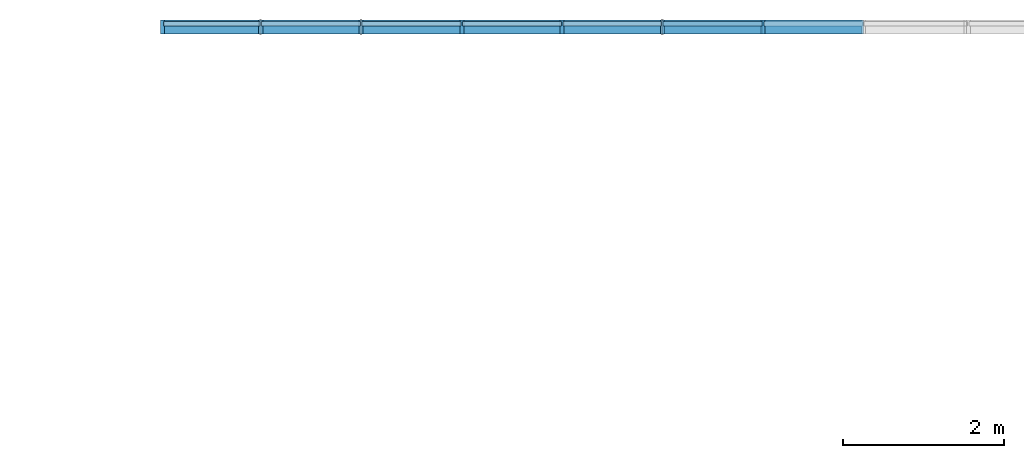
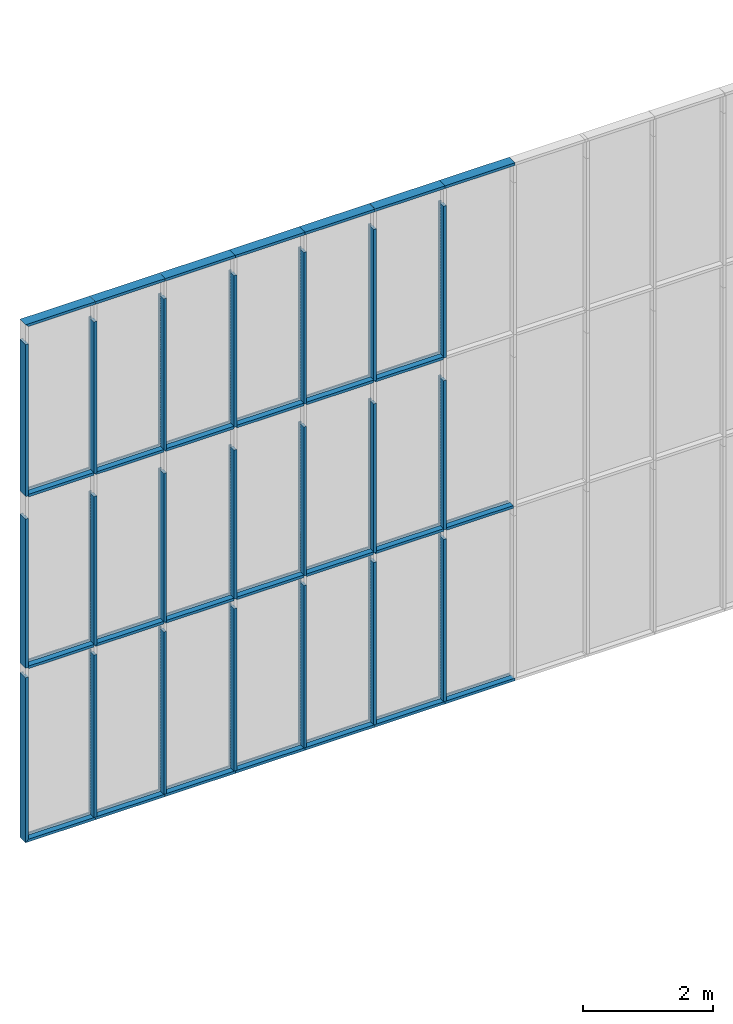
# One storey, part 10 of 387: 48 members, 1 element without a shape of its own.
"""IFC2X3 building model written with IfcOpenShell, lengths in millimetres."""

from ifc_helpers import new_model, entity, si_unit, converted_unit, derived_unit, money_unit, direction, frame, origin_with_axes, place, context, subcontext, project, spatial, polyline, outline, extrude, clip, halfspace, material, type_object, element, aggregate, save


model = new_model("IFC2X3")

# Units and contexts
model_context = context("Model", 3, precision=0.01, world=origin_with_axes(), true_north=direction((0.0, 1.0)))
body_context = subcontext(model_context, "Body", "Model", "MODEL_VIEW")
ifc_project = project(units=[si_unit("LENGTHUNIT", "METRE", prefix="MILLI"), si_unit("AREAUNIT", "SQUARE_METRE"), si_unit("VOLUMEUNIT", "CUBIC_METRE"), converted_unit("PLANEANGLEUNIT", "DEGREE", entity("IfcPlaneAngleMeasure", 0.0174532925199), si_unit("PLANEANGLEUNIT", "RADIAN"), dimensions=[0, 0, 0, 0, 0, 0, 0]), si_unit("SOLIDANGLEUNIT", "STERADIAN"), money_unit("EUR"), converted_unit("TIMEUNIT", "Year", entity("IfcTimeMeasure", 31556926.0), si_unit("TIMEUNIT", "SECOND"), dimensions=[0, 0, 1, 0, 0, 0, 0]), si_unit("MASSUNIT", "GRAM", prefix="KILO"), si_unit("THERMODYNAMICTEMPERATUREUNIT", "DEGREE_CELSIUS"), si_unit("LUMINOUSINTENSITYUNIT", "LUMEN"), si_unit("ENERGYUNIT", "JOULE", prefix="MEGA"), derived_unit("THERMALCONDUCTANCEUNIT", [(si_unit("POWERUNIT", "WATT"), 1), (si_unit("LENGTHUNIT", "METRE"), -1), (si_unit("THERMODYNAMICTEMPERATUREUNIT", "KELVIN"), -1)]), derived_unit("SPECIFICHEATCAPACITYUNIT", [(si_unit("ENERGYUNIT", "JOULE"), 1), (si_unit("MASSUNIT", "GRAM", prefix="KILO"), -1), (si_unit("THERMODYNAMICTEMPERATUREUNIT", "KELVIN"), -1)]), derived_unit("MASSDENSITYUNIT", [(si_unit("MASSUNIT", "GRAM", prefix="KILO"), 1), (si_unit("VOLUMEUNIT", "CUBIC_METRE"), -1)])], contexts=[model_context])

# Site, building, storey
site_placement = place(None, origin_with_axes())
site = spatial("IfcSite", under=ifc_project, at=site_placement, Name="Puškini 31, Narva", CompositionType="ELEMENT")
building_placement = place(site_placement, origin_with_axes())
building = spatial("IfcBuilding", under=site, at=building_placement, Name="Narva Riigigümnaasium", CompositionType="ELEMENT")
storey_placement = place(building_placement, frame((0.0, 0.0, 2640.0), z_axis=(0.0, 0.0, 1.0), x_axis=(1.0, 0.0, 0.0)))
storey = spatial("IfcBuildingStorey", under=building, at=storey_placement, Name="2.korrus +2.64", CompositionType="ELEMENT", Elevation=2640.0)

# Curtain wall, members
curtain_wall_type = type_object("IfcCurtainWallType", Name="Curtain Wall Type", PredefinedType="NOTDEFINED")
curtain_wall_placement = place(storey_placement, frame((50893.5555569, 254360.0, -2029.99998222), z_axis=(0.0, 0.0, 1.0), x_axis=(1.0, 0.0, 0.0)))
curtain_wall = element("IfcCurtainWall", 1, at=curtain_wall_placement, inside=storey, type_object=curtain_wall_type, Name="G-KLF-06")
ifc_material = material(Name="ET-04_Alumiinium")
member_type_1 = type_object("IfcMemberType", Name="Mullion Frame 50 x 176", PredefinedType="MULLION")
member_1_placement = place(curtain_wall_placement, frame((-8307.55555633, 0.0, 0.0), z_axis=(0.0, 0.0, 1.0), x_axis=(1.0, 0.0, 0.0)))
member_1 = element("IfcMember", 2, at=member_1_placement, type_object=member_type_1, material=ifc_material, Name="klaasfassaadi raam", ObjectType="MULLION", context=body_context, shape_type="SweptSolid", body=[
    extrude(outline(polyline([(-10.0, -29.0), (-25.0, -29.0), (-25.0, -130.0), (25.0, -130.0), (25.0, -29.0), (10.0, -29.0), (10.0, 29.0), (25.0, 29.0), (25.0, 46.0), (-25.0, 46.0), (-25.0, 29.0), (-10.0, 29.0), (-10.0, -29.0)])), frame((0.0, 0.0, 49.9999998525), z_axis=(0.0, 0.0, 1.0), x_axis=(1.0, 0.0, 0.0)), (0.0, 0.0, 1.0), 3059.99997702),
])
member_2_placement = place(curtain_wall_placement, frame((-9553.55555647, 0.0, 0.0), z_axis=(0.0, 0.0, 1.0), x_axis=(1.0, 0.0, 0.0)))
member_2 = element("IfcMember", 3, at=member_2_placement, type_object=member_type_1, material=ifc_material, Name="klaasfassaadi raam", ObjectType="MULLION", context=body_context, shape_type="SweptSolid", body=[
    extrude(outline(polyline([(-10.0, -29.0), (-25.0, -29.0), (-25.0, -130.0), (25.0, -130.0), (25.0, -29.0), (10.0, -29.0), (10.0, 29.0), (25.0, 29.0), (25.0, 46.0), (-25.0, 46.0), (-25.0, 29.0), (-10.0, 29.0), (-10.0, -29.0)])), frame((0.0, 0.0, 49.9999998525), z_axis=(0.0, 0.0, 1.0), x_axis=(1.0, 0.0, 0.0)), (0.0, 0.0, 1.0), 3059.99997702),
])
member_3_placement = place(curtain_wall_placement, frame((-8307.55555633, 0.0, 6526.66667876), z_axis=(0.0, 0.0, 1.0), x_axis=(1.0, 0.0, 0.0)))
member_3 = element("IfcMember", 4, at=member_3_placement, type_object=member_type_1, material=ifc_material, Name="klaasfassaadi raam", ObjectType="MULLION", context=body_context, shape_type="SweptSolid", body=[
    extrude(outline(polyline([(-10.0, -29.0), (-25.0, -29.0), (-25.0, -130.0), (25.0, -130.0), (25.0, -29.0), (10.0, -29.0), (10.0, 29.0), (25.0, 29.0), (25.0, 46.0), (-25.0, 46.0), (-25.0, 29.0), (-10.0, 29.0), (-10.0, -29.0)])), frame((0.0, 0.0, -1.08266284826e-06), z_axis=(0.0, 0.0, 1.0), x_axis=(1.0, 0.0, 0.0)), (0.0, 0.0, 1.0), 2863.33330005),
])
member_4_placement = place(curtain_wall_placement, frame((-9553.55555647, 0.0, 6526.66667876), z_axis=(0.0, 0.0, 1.0), x_axis=(1.0, 0.0, 0.0)))
member_4 = element("IfcMember", 5, at=member_4_placement, type_object=member_type_1, material=ifc_material, Name="klaasfassaadi raam", ObjectType="MULLION", context=body_context, shape_type="SweptSolid", body=[
    extrude(outline(polyline([(-10.0, -29.0), (-25.0, -29.0), (-25.0, -130.0), (25.0, -130.0), (25.0, -29.0), (10.0, -29.0), (10.0, 29.0), (25.0, 29.0), (25.0, 46.0), (-25.0, 46.0), (-25.0, 29.0), (-10.0, 29.0), (-10.0, -29.0)])), frame((0.0, 0.0, -1.08266284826e-06), z_axis=(0.0, 0.0, 1.0), x_axis=(1.0, 0.0, 0.0)), (0.0, 0.0, 1.0), 2863.33330005),
])
member_5_placement = place(curtain_wall_placement, frame((-8307.55555633, 0.0, 3288.33334081), z_axis=(0.0, 0.0, 1.0), x_axis=(1.0, 0.0, 0.0)))
member_5 = element("IfcMember", 6, at=member_5_placement, type_object=member_type_1, material=ifc_material, Name="klaasfassaadi raam", ObjectType="MULLION", context=body_context, shape_type="SweptSolid", body=[
    extrude(outline(polyline([(-10.0, -29.0), (-25.0, -29.0), (-25.0, -130.0), (25.0, -130.0), (25.0, -29.0), (10.0, -29.0), (10.0, 29.0), (25.0, 29.0), (25.0, 46.0), (-25.0, 46.0), (-25.0, 29.0), (-10.0, 29.0), (-10.0, -29.0)])), frame((0.0, 0.0, -9.10186148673e-07), z_axis=(0.0, 0.0, 1.0), x_axis=(1.0, 0.0, 0.0)), (0.0, 0.0, 1.0), 2811.66663707),
])
member_6_placement = place(curtain_wall_placement, frame((-9553.55555647, 0.0, 3288.33334081), z_axis=(0.0, 0.0, 1.0), x_axis=(1.0, 0.0, 0.0)))
member_6 = element("IfcMember", 7, at=member_6_placement, type_object=member_type_1, material=ifc_material, Name="klaasfassaadi raam", ObjectType="MULLION", context=body_context, shape_type="SweptSolid", body=[
    extrude(outline(polyline([(-10.0, -29.0), (-25.0, -29.0), (-25.0, -130.0), (25.0, -130.0), (25.0, -29.0), (10.0, -29.0), (10.0, 29.0), (25.0, 29.0), (25.0, 46.0), (-25.0, 46.0), (-25.0, 29.0), (-10.0, 29.0), (-10.0, -29.0)])), frame((0.0, 0.0, -9.10186148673e-07), z_axis=(0.0, 0.0, 1.0), x_axis=(1.0, 0.0, 0.0)), (0.0, 0.0, 1.0), 2811.66663707),
])
member_7_placement = place(curtain_wall_placement, frame((-5815.55555605, 0.0, 0.0), z_axis=(0.0, 0.0, 1.0), x_axis=(1.0, 0.0, 0.0)))
member_7 = element("IfcMember", 8, at=member_7_placement, type_object=member_type_1, material=ifc_material, Name="klaasfassaadi raam", ObjectType="MULLION", context=body_context, shape_type="SweptSolid", body=[
    extrude(outline(polyline([(-10.0, -29.0), (-25.0, -29.0), (-25.0, -130.0), (25.0, -130.0), (25.0, -29.0), (10.0, -29.0), (10.0, 29.0), (25.0, 29.0), (25.0, 46.0), (-25.0, 46.0), (-25.0, 29.0), (-10.0, 29.0), (-10.0, -29.0)])), frame((0.0, 0.0, 49.9999998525), z_axis=(0.0, 0.0, 1.0), x_axis=(1.0, 0.0, 0.0)), (0.0, 0.0, 1.0), 3059.99997702),
])
member_8_placement = place(curtain_wall_placement, frame((-7063.55556296, 0.0, 0.0), z_axis=(0.0, 0.0, 1.0), x_axis=(1.0, 0.0, 0.0)))
member_8 = element("IfcMember", 9, at=member_8_placement, type_object=member_type_1, material=ifc_material, Name="klaasfassaadi raam", ObjectType="MULLION", context=body_context, shape_type="SweptSolid", body=[
    extrude(outline(polyline([(-10.0, -29.0), (-25.0, -29.0), (-25.0, -130.0), (25.0, -130.0), (25.0, -29.0), (10.0, -29.0), (10.0, 29.0), (25.0, 29.0), (25.0, 46.0), (-25.0, 46.0), (-25.0, 29.0), (-10.0, 29.0), (-10.0, -29.0)])), frame((0.0, 0.0, 49.9999998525), z_axis=(0.0, 0.0, 1.0), x_axis=(1.0, 0.0, 0.0)), (0.0, 0.0, 1.0), 3059.99997702),
])
member_9_placement = place(curtain_wall_placement, frame((-10803.5555516, 0.0, 0.0), z_axis=(0.0, 0.0, 1.0), x_axis=(1.0, 0.0, 0.0)))
member_9 = element("IfcMember", 10, at=member_9_placement, type_object=member_type_1, material=ifc_material, Name="klaasfassaadi raam", ObjectType="MULLION", context=body_context, shape_type="SweptSolid", body=[
    extrude(outline(polyline([(-10.0, -29.0), (-25.0, -29.0), (-25.0, -130.0), (25.0, -130.0), (25.0, -29.0), (10.0, -29.0), (10.0, 29.0), (25.0, 29.0), (25.0, 46.0), (-25.0, 46.0), (-25.0, 29.0), (-10.0, 29.0), (-10.0, -29.0)])), frame((0.0, 0.0, 49.9999998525), z_axis=(0.0, 0.0, 1.0), x_axis=(1.0, 0.0, 0.0)), (0.0, 0.0, 1.0), 3059.99997702),
])
member_10_placement = place(curtain_wall_placement, frame((-12048.5555706, 0.0, 0.0), z_axis=(0.0, 0.0, 1.0), x_axis=(1.0, 0.0, 0.0)))
member_10 = element("IfcMember", 11, at=member_10_placement, type_object=member_type_1, material=ifc_material, Name="klaasfassaadi raam", ObjectType="MULLION", context=body_context, shape_type="SweptSolid", body=[
    extrude(outline(polyline([(-10.0, -29.0), (-25.0, -29.0), (-25.0, -130.0), (25.0, -130.0), (25.0, -29.0), (10.0, -29.0), (10.0, 29.0), (25.0, 29.0), (25.0, 46.0), (-25.0, 46.0), (-25.0, 29.0), (-10.0, 29.0), (-10.0, -29.0)])), frame((0.0, 0.0, 49.9999998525), z_axis=(0.0, 0.0, 1.0), x_axis=(1.0, 0.0, 0.0)), (0.0, 0.0, 1.0), 3059.99997702),
])
member_11_placement = place(curtain_wall_placement, frame((-5815.55555605, 0.0, 3288.33334081), z_axis=(0.0, 0.0, 1.0), x_axis=(1.0, 0.0, 0.0)))
member_11 = element("IfcMember", 12, at=member_11_placement, type_object=member_type_1, material=ifc_material, Name="klaasfassaadi raam", ObjectType="MULLION", context=body_context, shape_type="SweptSolid", body=[
    extrude(outline(polyline([(-10.0, -29.0), (-25.0, -29.0), (-25.0, -130.0), (25.0, -130.0), (25.0, -29.0), (10.0, -29.0), (10.0, 29.0), (25.0, 29.0), (25.0, 46.0), (-25.0, 46.0), (-25.0, 29.0), (-10.0, 29.0), (-10.0, -29.0)])), frame((0.0, 0.0, -9.10186148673e-07), z_axis=(0.0, 0.0, 1.0), x_axis=(1.0, 0.0, 0.0)), (0.0, 0.0, 1.0), 2811.66663707),
])
member_12_placement = place(curtain_wall_placement, frame((-5815.55555605, 0.0, 6526.66667876), z_axis=(0.0, 0.0, 1.0), x_axis=(1.0, 0.0, 0.0)))
member_12 = element("IfcMember", 13, at=member_12_placement, type_object=member_type_1, material=ifc_material, Name="klaasfassaadi raam", ObjectType="MULLION", context=body_context, shape_type="SweptSolid", body=[
    extrude(outline(polyline([(-10.0, -29.0), (-25.0, -29.0), (-25.0, -130.0), (25.0, -130.0), (25.0, -29.0), (10.0, -29.0), (10.0, 29.0), (25.0, 29.0), (25.0, 46.0), (-25.0, 46.0), (-25.0, 29.0), (-10.0, 29.0), (-10.0, -29.0)])), frame((0.0, 0.0, -1.08266284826e-06), z_axis=(0.0, 0.0, 1.0), x_axis=(1.0, 0.0, 0.0)), (0.0, 0.0, 1.0), 2863.33330005),
])
member_13_placement = place(curtain_wall_placement, frame((-7063.55556296, 0.0, 3288.33334081), z_axis=(-4.16561601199e-09, 0.0, 1.0), x_axis=(1.0, 0.0, 4.16561601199e-09)))
member_13 = element("IfcMember", 14, at=member_13_placement, type_object=member_type_1, material=ifc_material, Name="klaasfassaadi raam", ObjectType="MULLION", context=body_context, shape_type="SweptSolid", body=[
    extrude(outline(polyline([(-10.0, -29.0), (-25.0, -29.0), (-25.0, -130.0), (25.0, -130.0), (25.0, -29.0), (10.0, -29.0), (10.0, 29.0), (25.0, 29.0), (25.0, 46.0), (-25.0, 46.0), (-25.0, 29.0), (-10.0, 29.0), (-10.0, -29.0)])), frame((0.0, 0.0, -9.10186148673e-07), z_axis=(0.0, 0.0, 1.0), x_axis=(1.0, 0.0, -4.16561601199e-09)), (0.0, 0.0, 1.0), 2811.66663707),
])
member_14_placement = place(curtain_wall_placement, frame((-7063.55557467, 0.0, 6526.66667876), z_axis=(5.07916136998e-09, 0.0, 1.0), x_axis=(1.0, 0.0, -5.07916136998e-09)))
member_14 = element("IfcMember", 15, at=member_14_placement, type_object=member_type_1, material=ifc_material, Name="klaasfassaadi raam", ObjectType="MULLION", context=body_context, shape_type="SweptSolid", body=[
    extrude(outline(polyline([(-10.0, -29.0), (-25.0, -29.0), (-25.0, -130.0), (25.0, -130.0), (25.0, -29.0), (10.0, -29.0), (10.0, 29.0), (25.0, 29.0), (25.0, 46.0), (-25.0, 46.0), (-25.0, 29.0), (-10.0, 29.0), (-10.0, -29.0)])), frame((0.0, 0.0, -1.08266373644e-06), z_axis=(0.0, 0.0, 1.0), x_axis=(1.0, 0.0, 5.07916136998e-09)), (0.0, 0.0, 1.0), 2863.33330005),
])
member_15_placement = place(curtain_wall_placement, frame((-10803.5555516, 0.0, 3288.33334081), z_axis=(2.50148784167e-09, 0.0, 1.0), x_axis=(1.0, 0.0, -2.50148784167e-09)))
member_15 = element("IfcMember", 16, at=member_15_placement, type_object=member_type_1, material=ifc_material, Name="klaasfassaadi raam", ObjectType="MULLION", context=body_context, shape_type="SweptSolid", body=[
    extrude(outline(polyline([(-10.0, -29.0), (-25.0, -29.0), (-25.0, -130.0), (25.0, -130.0), (25.0, -29.0), (10.0, -29.0), (10.0, 29.0), (25.0, 29.0), (25.0, 46.0), (-25.0, 46.0), (-25.0, 29.0), (-10.0, 29.0), (-10.0, -29.0)])), frame((0.0, 0.0, -9.10186592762e-07), z_axis=(0.0, 0.0, 1.0), x_axis=(1.0, 0.0, 2.50148784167e-09)), (0.0, 0.0, 1.0), 2811.66663707),
])
member_16_placement = place(curtain_wall_placement, frame((-10803.5555445, 0.0, 6526.66667876), z_axis=(-7.49551458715e-10, 0.0, 1.0), x_axis=(1.0, 0.0, 7.49551458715e-10)))
member_16 = element("IfcMember", 17, at=member_16_placement, type_object=member_type_1, material=ifc_material, Name="klaasfassaadi raam", ObjectType="MULLION", context=body_context, shape_type="SweptSolid", body=[
    extrude(outline(polyline([(-10.0, -29.0), (-25.0, -29.0), (-25.0, -130.0), (25.0, -130.0), (25.0, -29.0), (10.0, -29.0), (10.0, 29.0), (25.0, 29.0), (25.0, 46.0), (-25.0, 46.0), (-25.0, 29.0), (-10.0, 29.0), (-10.0, -29.0)])), frame((0.0, 0.0, -1.08266284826e-06), z_axis=(0.0, 0.0, 1.0), x_axis=(1.0, 0.0, -7.49551458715e-10)), (0.0, 0.0, 1.0), 2863.33330005),
])
member_17_placement = place(curtain_wall_placement, frame((-12048.5555706, 0.0, 3288.33334081), z_axis=(-3.10278137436e-09, 0.0, 1.0), x_axis=(1.0, 0.0, 3.10278137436e-09)))
member_17 = element("IfcMember", 18, at=member_17_placement, type_object=member_type_1, material=ifc_material, Name="klaasfassaadi raam", ObjectType="MULLION", context=body_context, shape_type="SweptSolid", body=[
    extrude(outline(polyline([(-10.0, -29.0), (-25.0, -29.0), (-25.0, -130.0), (25.0, -130.0), (25.0, -29.0), (10.0, -29.0), (10.0, 29.0), (25.0, 29.0), (25.0, 46.0), (-25.0, 46.0), (-25.0, 29.0), (-10.0, 29.0), (-10.0, -29.0)])), frame((0.0, 0.0, -9.10186148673e-07), z_axis=(0.0, 0.0, 1.0), x_axis=(1.0, 0.0, -3.10278137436e-09)), (0.0, 0.0, 1.0), 2811.66663707),
])
member_18_placement = place(curtain_wall_placement, frame((-12048.5555793, 0.0, 6526.66667871), z_axis=(2.58350860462e-09, 0.0, 1.0), x_axis=(1.0, 0.0, -2.58350860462e-09)))
member_18 = element("IfcMember", 19, at=member_18_placement, type_object=member_type_1, material=ifc_material, Name="klaasfassaadi raam", ObjectType="MULLION", context=body_context, shape_type="SweptSolid", body=[
    extrude(outline(polyline([(-10.0, -29.0), (-25.0, -29.0), (-25.0, -130.0), (25.0, -130.0), (25.0, -29.0), (10.0, -29.0), (10.0, 29.0), (25.0, 29.0), (25.0, 46.0), (-25.0, 46.0), (-25.0, 29.0), (-10.0, 29.0), (-10.0, -29.0)])), frame((0.0, 0.0, -1.08266373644e-06), z_axis=(0.0, 0.0, 1.0), x_axis=(1.0, 0.0, 2.58350860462e-09)), (0.0, 0.0, 1.0), 2863.33330005),
])
member_type_2 = type_object("IfcMemberType", Name="Boundary Frame 50 x 176", PredefinedType="MULLION")
member_19_placement = place(curtain_wall_placement, frame((-13291.5555569, 0.0, 0.0), z_axis=(0.0, 0.0, 1.0), x_axis=(1.0, 0.0, 0.0)))
member_19 = element("IfcMember", 20, at=member_19_placement, type_object=member_type_2, material=ifc_material, Name="klaasfassaadi raam", ObjectType="MULLION", context=body_context, shape_type="Clipping", body=[
    clip(extrude(outline(polyline([(35.0, -29.0), (35.0, 29.0), (50.0, 29.0), (50.0, 46.0), (0.0, 46.0), (0.0, -130.0), (50.0, -130.0), (50.0, -29.0), (35.0, -29.0)])), origin_with_axes(), (0.0, 0.0, 1.0), 3109.99997589), halfspace(frame((0.0, 0.0, 0.0), z_axis=(-0.707106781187, 0.0, 0.707106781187), x_axis=(0.0, -1.0, 0.0)), True)),
])
member_20_placement = place(curtain_wall_placement, frame((-12048.5555706, 0.0, 0.0), z_axis=(-1.0, 0.0, 0.0), x_axis=(0.0, 0.0, 1.0)))
member_20 = element("IfcMember", 21, at=member_20_placement, type_object=member_type_2, material=ifc_material, Name="klaasfassaadi raam", ObjectType="MULLION", context=body_context, shape_type="Clipping", body=[
    clip(extrude(outline(polyline([(-29.0, -35.0), (29.0, -35.0), (29.0, -50.0), (46.0, -50.0), (46.0, 0.0), (-130.0, 0.0), (-130.0, -50.0), (-29.0, -50.0), (-29.0, -35.0)])), frame((0.0, 0.0, 0.0), z_axis=(0.0, 0.0, 1.0), x_axis=(0.0, 1.0, 0.0)), (0.0, 0.0, 1.0), 1242.99998628), halfspace(frame((621.49999314, 0.0, 621.49999314), z_axis=(-0.707106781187, 0.0, -0.707106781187), x_axis=(0.0, 1.0, 0.0)), True)),
])
member_21_placement = place(curtain_wall_placement, frame((-10803.5555516, 0.0, 0.0), z_axis=(-1.0, 0.0, 0.0), x_axis=(0.0, 0.0, 1.0)))
member_21 = element("IfcMember", 22, at=member_21_placement, type_object=member_type_2, material=ifc_material, Name="klaasfassaadi raam", ObjectType="MULLION", context=body_context, shape_type="SweptSolid", body=[
    extrude(outline(polyline([(-29.0, -35.0), (29.0, -35.0), (29.0, -50.0), (46.0, -50.0), (46.0, 0.0), (-130.0, 0.0), (-130.0, -50.0), (-29.0, -50.0), (-29.0, -35.0)])), frame((0.0, 0.0, 0.0), z_axis=(0.0, 0.0, 1.0), x_axis=(0.0, 1.0, 0.0)), (0.0, 0.0, 1.0), 1242.00000518),
])
member_22_placement = place(curtain_wall_placement, frame((-9553.55555647, 0.0, 0.0), z_axis=(-1.0, 0.0, 0.0), x_axis=(0.0, 0.0, 1.0)))
member_22 = element("IfcMember", 23, at=member_22_placement, type_object=member_type_2, material=ifc_material, Name="klaasfassaadi raam", ObjectType="MULLION", context=body_context, shape_type="SweptSolid", body=[
    extrude(outline(polyline([(-29.0, -35.0), (29.0, -35.0), (29.0, -50.0), (46.0, -50.0), (46.0, 0.0), (-130.0, 0.0), (-130.0, -50.0), (-29.0, -50.0), (-29.0, -35.0)])), frame((0.0, 0.0, 0.0), z_axis=(0.0, 0.0, 1.0), x_axis=(0.0, 1.0, 0.0)), (0.0, 0.0, 1.0), 1246.00000014),
])
member_23_placement = place(curtain_wall_placement, frame((-8307.55555633, 0.0, 0.0), z_axis=(-1.0, 0.0, 0.0), x_axis=(0.0, 0.0, 1.0)))
member_23 = element("IfcMember", 24, at=member_23_placement, type_object=member_type_2, material=ifc_material, Name="klaasfassaadi raam", ObjectType="MULLION", context=body_context, shape_type="SweptSolid", body=[
    extrude(outline(polyline([(-29.0, -35.0), (29.0, -35.0), (29.0, -50.0), (46.0, -50.0), (46.0, 0.0), (-130.0, 0.0), (-130.0, -50.0), (-29.0, -50.0), (-29.0, -35.0)])), frame((0.0, 0.0, 0.0), z_axis=(0.0, 0.0, 1.0), x_axis=(0.0, 1.0, 0.0)), (0.0, 0.0, 1.0), 1246.00000014),
])
member_24_placement = place(curtain_wall_placement, frame((-7063.55556296, 0.0, 0.0), z_axis=(-1.0, 0.0, 0.0), x_axis=(0.0, 0.0, 1.0)))
member_24 = element("IfcMember", 25, at=member_24_placement, type_object=member_type_2, material=ifc_material, Name="klaasfassaadi raam", ObjectType="MULLION", context=body_context, shape_type="SweptSolid", body=[
    extrude(outline(polyline([(-29.0, -35.0), (29.0, -35.0), (29.0, -50.0), (46.0, -50.0), (46.0, 0.0), (-130.0, 0.0), (-130.0, -50.0), (-29.0, -50.0), (-29.0, -35.0)])), frame((0.0, 0.0, 0.0), z_axis=(0.0, 0.0, 1.0), x_axis=(0.0, 1.0, 0.0)), (0.0, 0.0, 1.0), 1243.99999337),
])
member_25_placement = place(curtain_wall_placement, frame((-5815.55555605, 0.0, 0.0), z_axis=(-1.0, 0.0, 0.0), x_axis=(0.0, 0.0, 1.0)))
member_25 = element("IfcMember", 26, at=member_25_placement, type_object=member_type_2, material=ifc_material, Name="klaasfassaadi raam", ObjectType="MULLION", context=body_context, shape_type="SweptSolid", body=[
    extrude(outline(polyline([(-29.0, -35.0), (29.0, -35.0), (29.0, -50.0), (46.0, -50.0), (46.0, 0.0), (-130.0, 0.0), (-130.0, -50.0), (-29.0, -50.0), (-29.0, -35.0)])), frame((0.0, 0.0, 0.0), z_axis=(0.0, 0.0, 1.0), x_axis=(0.0, 1.0, 0.0)), (0.0, 0.0, 1.0), 1246.00000014),
])
member_26_placement = place(curtain_wall_placement, frame((-4569.55555591, 0.0, 0.0), z_axis=(-1.0, 0.0, 0.0), x_axis=(0.0, 0.0, 1.0)))
member_26 = element("IfcMember", 27, at=member_26_placement, type_object=member_type_2, material=ifc_material, Name="klaasfassaadi raam", ObjectType="MULLION", context=body_context, shape_type="SweptSolid", body=[
    extrude(outline(polyline([(-29.0, -35.0), (29.0, -35.0), (29.0, -50.0), (46.0, -50.0), (46.0, 0.0), (-130.0, 0.0), (-130.0, -50.0), (-29.0, -50.0), (-29.0, -35.0)])), frame((0.0, 0.0, 0.0), z_axis=(0.0, 0.0, 1.0), x_axis=(0.0, 1.0, 0.0)), (0.0, 0.0, 1.0), 1246.00000014),
])
member_27_placement = place(curtain_wall_placement, frame((-13291.5555569, 0.0, 6526.66665813), z_axis=(0.0, 0.0, 1.0), x_axis=(1.0, 0.0, 0.0)))
member_27 = element("IfcMember", 28, at=member_27_placement, type_object=member_type_2, material=ifc_material, Name="klaasfassaadi raam", ObjectType="MULLION", context=body_context, shape_type="SweptSolid", body=[
    extrude(outline(polyline([(35.0, -29.0), (35.0, 29.0), (50.0, 29.0), (50.0, 46.0), (0.0, 46.0), (0.0, -130.0), (50.0, -130.0), (50.0, -29.0), (35.0, -29.0)])), origin_with_axes(), (0.0, 0.0, 1.0), 2863.33331775),
])
member_28_placement = place(curtain_wall_placement, frame((-13291.5555569, 0.0, 3288.33333881), z_axis=(0.0, 0.0, 1.0), x_axis=(1.0, 0.0, 0.0)))
member_28 = element("IfcMember", 29, at=member_28_placement, type_object=member_type_2, material=ifc_material, Name="klaasfassaadi raam", ObjectType="MULLION", context=body_context, shape_type="SweptSolid", body=[
    extrude(outline(polyline([(35.0, -29.0), (35.0, 29.0), (50.0, 29.0), (50.0, 46.0), (0.0, 46.0), (0.0, -130.0), (50.0, -130.0), (50.0, -29.0), (35.0, -29.0)])), origin_with_axes(), (0.0, 0.0, 1.0), 2811.66663707),
])
member_29_placement = place(curtain_wall_placement, frame((-5815.55555605, 0.0, 9765.00000442), z_axis=(1.0, 0.0, 0.0), x_axis=(0.0, 0.0, -1.0)))
member_29 = element("IfcMember", 30, at=member_29_placement, type_object=member_type_2, material=ifc_material, Name="klaasfassaadi raam", ObjectType="MULLION", context=body_context, shape_type="SweptSolid", body=[
    extrude(outline(polyline([(29.0, 35.0), (-29.0, 35.0), (-29.0, 50.0), (-46.0, 50.0), (-46.0, 0.0), (130.0, 0.0), (130.0, 50.0), (29.0, 50.0), (29.0, 35.0)])), frame((0.0, 0.0, 0.0), z_axis=(0.0, 0.0, 1.0), x_axis=(0.0, -1.0, 0.0)), (0.0, 0.0, 1.0), 1246.00000014),
])
member_30_placement = place(curtain_wall_placement, frame((-7061.55555619, 0.0, 9765.00000442), z_axis=(1.0, 0.0, 0.0), x_axis=(0.0, 0.0, -1.0)))
member_30 = element("IfcMember", 31, at=member_30_placement, type_object=member_type_2, material=ifc_material, Name="klaasfassaadi raam", ObjectType="MULLION", context=body_context, shape_type="SweptSolid", body=[
    extrude(outline(polyline([(29.0, 35.0), (-29.0, 35.0), (-29.0, 50.0), (-46.0, 50.0), (-46.0, 0.0), (130.0, 0.0), (130.0, 50.0), (29.0, 50.0), (29.0, 35.0)])), frame((0.0, 0.0, 0.0), z_axis=(0.0, 0.0, 1.0), x_axis=(0.0, -1.0, 0.0)), (0.0, 0.0, 1.0), 1246.00000014),
])
member_31_placement = place(curtain_wall_placement, frame((-9553.55555647, 0.0, 9765.00000442), z_axis=(1.0, 0.0, 0.0), x_axis=(0.0, 0.0, -1.0)))
member_31 = element("IfcMember", 32, at=member_31_placement, type_object=member_type_2, material=ifc_material, Name="klaasfassaadi raam", ObjectType="MULLION", context=body_context, shape_type="SweptSolid", body=[
    extrude(outline(polyline([(29.0, 35.0), (-29.0, 35.0), (-29.0, 50.0), (-46.0, 50.0), (-46.0, 0.0), (130.0, 0.0), (130.0, 50.0), (29.0, 50.0), (29.0, 35.0)])), frame((0.0, 0.0, 0.0), z_axis=(0.0, 0.0, 1.0), x_axis=(0.0, -1.0, 0.0)), (0.0, 0.0, 1.0), 1246.00000014),
])
member_32_placement = place(curtain_wall_placement, frame((-10799.5555566, 0.0, 9765.00000442), z_axis=(1.0, 0.0, 0.0), x_axis=(0.0, 0.0, -1.0)))
member_32 = element("IfcMember", 33, at=member_32_placement, type_object=member_type_2, material=ifc_material, Name="klaasfassaadi raam", ObjectType="MULLION", context=body_context, shape_type="SweptSolid", body=[
    extrude(outline(polyline([(29.0, 35.0), (-29.0, 35.0), (-29.0, 50.0), (-46.0, 50.0), (-46.0, 0.0), (130.0, 0.0), (130.0, 50.0), (29.0, 50.0), (29.0, 35.0)])), frame((0.0, 0.0, 0.0), z_axis=(0.0, 0.0, 1.0), x_axis=(0.0, -1.0, 0.0)), (0.0, 0.0, 1.0), 1246.00000014),
])
member_33_placement = place(curtain_wall_placement, frame((-8307.55555633, 0.0, 9765.00000442), z_axis=(1.0, 0.0, 0.0), x_axis=(0.0, 0.0, -1.0)))
member_33 = element("IfcMember", 34, at=member_33_placement, type_object=member_type_2, material=ifc_material, Name="klaasfassaadi raam", ObjectType="MULLION", context=body_context, shape_type="SweptSolid", body=[
    extrude(outline(polyline([(29.0, 35.0), (-29.0, 35.0), (-29.0, 50.0), (-46.0, 50.0), (-46.0, 0.0), (130.0, 0.0), (130.0, 50.0), (29.0, 50.0), (29.0, 35.0)])), frame((0.0, 0.0, 0.0), z_axis=(0.0, 0.0, 1.0), x_axis=(0.0, -1.0, 0.0)), (0.0, 0.0, 1.0), 1243.99999337),
])
member_34_placement = place(curtain_wall_placement, frame((-12045.5555567, 0.0, 9765.00000442), z_axis=(1.0, 0.0, 0.0), x_axis=(0.0, 0.0, -1.0)))
member_34 = element("IfcMember", 35, at=member_34_placement, type_object=member_type_2, material=ifc_material, Name="klaasfassaadi raam", ObjectType="MULLION", context=body_context, shape_type="SweptSolid", body=[
    extrude(outline(polyline([(29.0, 35.0), (-29.0, 35.0), (-29.0, 50.0), (-46.0, 50.0), (-46.0, 0.0), (130.0, 0.0), (130.0, 50.0), (29.0, 50.0), (29.0, 35.0)])), frame((0.0, 0.0, 0.0), z_axis=(0.0, 0.0, 1.0), x_axis=(0.0, -1.0, 0.0)), (0.0, 0.0, 1.0), 1242.00000518),
])
member_35_placement = place(curtain_wall_placement, frame((-13291.5555569, 0.0, 9765.00000442), z_axis=(1.0, 0.0, 0.0), x_axis=(0.0, 0.0, -1.0)))
member_35 = element("IfcMember", 36, at=member_35_placement, type_object=member_type_2, material=ifc_material, Name="klaasfassaadi raam", ObjectType="MULLION", context=body_context, shape_type="Clipping", body=[
    clip(extrude(outline(polyline([(29.0, 35.0), (-29.0, 35.0), (-29.0, 50.0), (-46.0, 50.0), (-46.0, 0.0), (130.0, 0.0), (130.0, 50.0), (29.0, 50.0), (29.0, 35.0)])), frame((0.0, 0.0, 0.0), z_axis=(0.0, 0.0, 1.0), x_axis=(0.0, -1.0, 0.0)), (0.0, 0.0, 1.0), 1242.99998495), halfspace(frame((0.0, 0.0, 0.0), z_axis=(-0.707106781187, 0.0, 0.707106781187), x_axis=(0.0, -1.0, 0.0)), True)),
])
member_type_3 = type_object("IfcMemberType", Name="Transom Frame 50 x 176", PredefinedType="MULLION")
member_36_placement = place(curtain_wall_placement, frame((-5837.22223822, 0.0, 3288.33334081), z_axis=(-1.0, 0.0, 0.0), x_axis=(0.0, 0.0, 1.0)))
member_36 = element("IfcMember", 37, at=member_36_placement, type_object=member_type_3, material=ifc_material, Name="klaasfassaadi raam", ObjectType="MULLION", context=body_context, shape_type="SweptSolid", body=[
    extrude(outline(polyline([(-29.0, 10.0), (-29.0, 25.0), (-130.0, 25.0), (-130.0, -25.0), (-29.0, -25.0), (-29.0, -10.0), (29.0, -10.0), (29.0, -25.0), (46.0, -25.0), (46.0, 25.0), (29.0, 25.0), (29.0, 10.0), (-29.0, 10.0)])), frame((0.0, 0.0, 0.0), z_axis=(0.0, 0.0, 1.0), x_axis=(0.0, 1.0, 0.0)), (0.0, 0.0, 1.0), 1224.33331797),
])
member_37_placement = place(curtain_wall_placement, frame((-4569.55555591, 0.0, 3288.33334081), z_axis=(-1.0, 0.0, 0.0), x_axis=(0.0, 0.0, 1.0)))
member_37 = element("IfcMember", 38, at=member_37_placement, type_object=member_type_3, material=ifc_material, Name="klaasfassaadi raam", ObjectType="MULLION", context=body_context, shape_type="SweptSolid", body=[
    extrude(outline(polyline([(-29.0, 10.0), (-29.0, 25.0), (-130.0, 25.0), (-130.0, -25.0), (-29.0, -25.0), (-29.0, -10.0), (29.0, -10.0), (29.0, -25.0), (46.0, -25.0), (46.0, 25.0), (29.0, 25.0), (29.0, 10.0), (-29.0, 10.0)])), frame((0.0, 0.0, 25.0), z_axis=(0.0, 0.0, 1.0), x_axis=(0.0, 1.0, 0.0)), (0.0, 0.0, 1.0), 1196.00000014),
])
member_38_placement = place(curtain_wall_placement, frame((-7063.55556296, 0.0, 3288.33334081), z_axis=(-1.0, 0.0, 0.0), x_axis=(0.0, 0.0, 1.0)))
member_38 = element("IfcMember", 39, at=member_38_placement, type_object=member_type_3, material=ifc_material, Name="klaasfassaadi raam", ObjectType="MULLION", context=body_context, shape_type="SweptSolid", body=[
    extrude(outline(polyline([(-29.0, 10.0), (-29.0, 25.0), (-130.0, 25.0), (-130.0, -25.0), (-29.0, -25.0), (-29.0, -10.0), (29.0, -10.0), (29.0, -25.0), (46.0, -25.0), (46.0, 25.0), (29.0, 25.0), (29.0, 10.0), (-29.0, 10.0)])), frame((0.0, 0.0, 25.0), z_axis=(0.0, 0.0, 1.0), x_axis=(0.0, 1.0, 0.0)), (0.0, 0.0, 1.0), 1193.99999337),
])
member_39_placement = place(curtain_wall_placement, frame((-8307.55555633, 0.0, 3288.33334081), z_axis=(-1.0, 0.0, 0.0), x_axis=(0.0, 0.0, 1.0)))
member_39 = element("IfcMember", 40, at=member_39_placement, type_object=member_type_3, material=ifc_material, Name="klaasfassaadi raam", ObjectType="MULLION", context=body_context, shape_type="SweptSolid", body=[
    extrude(outline(polyline([(-29.0, 10.0), (-29.0, 25.0), (-130.0, 25.0), (-130.0, -25.0), (-29.0, -25.0), (-29.0, -10.0), (29.0, -10.0), (29.0, -25.0), (46.0, -25.0), (46.0, 25.0), (29.0, 25.0), (29.0, 10.0), (-29.0, 10.0)])), frame((0.0, 0.0, 25.0), z_axis=(0.0, 0.0, 1.0), x_axis=(0.0, 1.0, 0.0)), (0.0, 0.0, 1.0), 1196.00000014),
])
member_40_placement = place(curtain_wall_placement, frame((-9553.55555647, 0.0, 3288.33334081), z_axis=(-1.0, 0.0, 0.0), x_axis=(0.0, 0.0, 1.0)))
member_40 = element("IfcMember", 41, at=member_40_placement, type_object=member_type_3, material=ifc_material, Name="klaasfassaadi raam", ObjectType="MULLION", context=body_context, shape_type="SweptSolid", body=[
    extrude(outline(polyline([(-29.0, 10.0), (-29.0, 25.0), (-130.0, 25.0), (-130.0, -25.0), (-29.0, -25.0), (-29.0, -10.0), (29.0, -10.0), (29.0, -25.0), (46.0, -25.0), (46.0, 25.0), (29.0, 25.0), (29.0, 10.0), (-29.0, 10.0)])), frame((0.0, 0.0, 25.0), z_axis=(0.0, 0.0, 1.0), x_axis=(0.0, 1.0, 0.0)), (0.0, 0.0, 1.0), 1221.00000014),
])
member_41_placement = place(curtain_wall_placement, frame((-10803.5555516, 0.0, 3288.33334081), z_axis=(-1.0, 0.0, 0.0), x_axis=(0.0, 0.0, 1.0)))
member_41 = element("IfcMember", 42, at=member_41_placement, type_object=member_type_3, material=ifc_material, Name="klaasfassaadi raam", ObjectType="MULLION", context=body_context, shape_type="SweptSolid", body=[
    extrude(outline(polyline([(-29.0, 10.0), (-29.0, 25.0), (-130.0, 25.0), (-130.0, -25.0), (-29.0, -25.0), (-29.0, -10.0), (29.0, -10.0), (29.0, -25.0), (46.0, -25.0), (46.0, 25.0), (29.0, 25.0), (29.0, 10.0), (-29.0, 10.0)])), frame((0.0, 0.0, 24.9999998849), z_axis=(0.0, 0.0, 1.0), x_axis=(0.0, 1.0, 0.0)), (0.0, 0.0, 1.0), 1217.00000533),
])
member_42_placement = place(curtain_wall_placement, frame((-12048.5555706, 0.0, 3288.33334081), z_axis=(-1.0, 0.0, -1.60397468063e-09), x_axis=(-1.60397468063e-09, 0.0, 1.0)))
member_42 = element("IfcMember", 43, at=member_42_placement, type_object=member_type_3, material=ifc_material, Name="klaasfassaadi raam", ObjectType="MULLION", context=body_context, shape_type="SweptSolid", body=[
    extrude(outline(polyline([(-29.0, 10.0), (-29.0, 25.0), (-130.0, 25.0), (-130.0, -25.0), (-29.0, -25.0), (-29.0, -10.0), (29.0, -10.0), (29.0, -25.0), (46.0, -25.0), (46.0, 25.0), (29.0, 25.0), (29.0, 10.0), (-29.0, 10.0)])), frame((0.0, 0.0, 24.999999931), z_axis=(0.0, 0.0, 1.0), x_axis=(0.0, 1.0, 0.0)), (0.0, 0.0, 1.0), 1167.99998642),
])
member_43_placement = place(curtain_wall_placement, frame((-5815.55555605, 0.0, 6526.66667876), z_axis=(-1.0, 0.0, 0.0), x_axis=(0.0, 0.0, 1.0)))
member_43 = element("IfcMember", 44, at=member_43_placement, type_object=member_type_3, material=ifc_material, Name="klaasfassaadi raam", ObjectType="MULLION", context=body_context, shape_type="SweptSolid", body=[
    extrude(outline(polyline([(-29.0, 10.0), (-29.0, 25.0), (-130.0, 25.0), (-130.0, -25.0), (-29.0, -25.0), (-29.0, -10.0), (29.0, -10.0), (29.0, -25.0), (46.0, -25.0), (46.0, 25.0), (29.0, 25.0), (29.0, 10.0), (-29.0, 10.0)])), frame((0.0, 0.0, 25.0), z_axis=(0.0, 0.0, 1.0), x_axis=(0.0, 1.0, 0.0)), (0.0, 0.0, 1.0), 1221.00000014),
])
member_44_placement = place(curtain_wall_placement, frame((-7063.55557467, 0.0, 6526.66667876), z_axis=(-1.0, 0.0, 0.0), x_axis=(0.0, 0.0, 1.0)))
member_44 = element("IfcMember", 45, at=member_44_placement, type_object=member_type_3, material=ifc_material, Name="klaasfassaadi raam", ObjectType="MULLION", context=body_context, shape_type="SweptSolid", body=[
    extrude(outline(polyline([(-29.0, 10.0), (-29.0, 25.0), (-130.0, 25.0), (-130.0, -25.0), (-29.0, -25.0), (-29.0, -10.0), (29.0, -10.0), (29.0, -25.0), (46.0, -25.0), (46.0, 25.0), (29.0, 25.0), (29.0, 10.0), (-29.0, 10.0)])), frame((0.0, 0.0, 25.0), z_axis=(0.0, 0.0, 1.0), x_axis=(0.0, 1.0, 0.0)), (0.0, 0.0, 1.0), 1193.99999337),
])
member_45_placement = place(curtain_wall_placement, frame((-8307.55555633, 0.0, 6526.66667876), z_axis=(-1.0, 0.0, 0.0), x_axis=(0.0, 0.0, 1.0)))
member_45 = element("IfcMember", 46, at=member_45_placement, type_object=member_type_3, material=ifc_material, Name="klaasfassaadi raam", ObjectType="MULLION", context=body_context, shape_type="SweptSolid", body=[
    extrude(outline(polyline([(-29.0, 10.0), (-29.0, 25.0), (-130.0, 25.0), (-130.0, -25.0), (-29.0, -25.0), (-29.0, -10.0), (29.0, -10.0), (29.0, -25.0), (46.0, -25.0), (46.0, 25.0), (29.0, 25.0), (29.0, 10.0), (-29.0, 10.0)])), frame((0.0, 0.0, 25.0), z_axis=(0.0, 0.0, 1.0), x_axis=(0.0, 1.0, 0.0)), (0.0, 0.0, 1.0), 1196.00000014),
])
member_46_placement = place(curtain_wall_placement, frame((-9553.55555647, 0.0, 6526.66667876), z_axis=(-1.0, 0.0, 0.0), x_axis=(0.0, 0.0, 1.0)))
member_46 = element("IfcMember", 47, at=member_46_placement, type_object=member_type_3, material=ifc_material, Name="klaasfassaadi raam", ObjectType="MULLION", context=body_context, shape_type="SweptSolid", body=[
    extrude(outline(polyline([(-29.0, 10.0), (-29.0, 25.0), (-130.0, 25.0), (-130.0, -25.0), (-29.0, -25.0), (-29.0, -10.0), (29.0, -10.0), (29.0, -25.0), (46.0, -25.0), (46.0, 25.0), (29.0, 25.0), (29.0, 10.0), (-29.0, 10.0)])), frame((0.0, 0.0, 25.0), z_axis=(0.0, 0.0, 1.0), x_axis=(0.0, 1.0, 0.0)), (0.0, 0.0, 1.0), 1221.00000014),
])
member_47_placement = place(curtain_wall_placement, frame((-10803.5555445, 0.0, 6526.66667876), z_axis=(-1.0, 0.0, 0.0), x_axis=(0.0, 0.0, 1.0)))
member_47 = element("IfcMember", 48, at=member_47_placement, type_object=member_type_3, material=ifc_material, Name="klaasfassaadi raam", ObjectType="MULLION", context=body_context, shape_type="SweptSolid", body=[
    extrude(outline(polyline([(-29.0, 10.0), (-29.0, 25.0), (-130.0, 25.0), (-130.0, -25.0), (-29.0, -25.0), (-29.0, -10.0), (29.0, -10.0), (29.0, -25.0), (46.0, -25.0), (46.0, 25.0), (29.0, 25.0), (29.0, 10.0), (-29.0, 10.0)])), frame((0.0, 0.0, 24.9999998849), z_axis=(0.0, 0.0, 1.0), x_axis=(0.0, 1.0, 0.0)), (0.0, 0.0, 1.0), 1217.00000533),
])
member_48_placement = place(curtain_wall_placement, frame((-12048.5555793, 0.0, 6526.66667871), z_axis=(-1.0, 0.0, -1.65575610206e-08), x_axis=(-1.65575610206e-08, 0.0, 1.0)))
member_48 = element("IfcMember", 49, at=member_48_placement, type_object=member_type_3, material=ifc_material, Name="klaasfassaadi raam", ObjectType="MULLION", context=body_context, shape_type="SweptSolid", body=[
    extrude(outline(polyline([(-29.0, 10.0), (-29.0, 25.0), (-130.0, 25.0), (-130.0, -25.0), (-29.0, -25.0), (-29.0, -10.0), (29.0, -10.0), (29.0, -25.0), (46.0, -25.0), (46.0, 25.0), (29.0, 25.0), (29.0, 10.0), (-29.0, 10.0)])), frame((0.0, 0.0, 24.9999999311), z_axis=(0.0, 0.0, 1.0), x_axis=(0.0, 1.0, 0.0)), (0.0, 0.0, 1.0), 1167.99998642),
])
aggregate(curtain_wall, [member_19, member_20, member_21, member_22, member_23, member_24, member_25, member_26, member_36, member_1, member_2, member_3, member_4, member_27, member_5, member_6, member_28, member_29, member_30, member_31, member_32, member_37, member_38, member_39, member_40, member_41, member_42, member_43, member_44, member_45, member_46, member_47, member_48, member_7, member_8, member_9, member_10, member_11, member_12, member_33, member_13, member_14, member_34, member_15, member_16, member_35, member_17, member_18])

save(model, "model.ifc")
